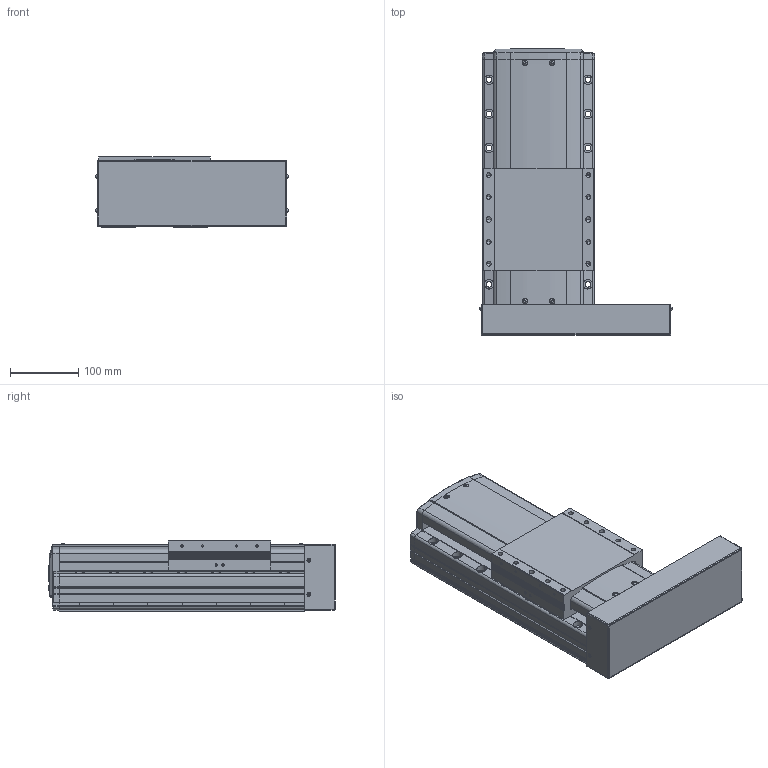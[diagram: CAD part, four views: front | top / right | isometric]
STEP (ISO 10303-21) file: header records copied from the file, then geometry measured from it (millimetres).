
FILE_DESCRIPTION(('STEP AP214'),'1');
FILE_NAME('Z:/Web/3D/PSA165/STP/PSA165-100 (3D)/PSA165ㅁㅁ-100PR.stp','2014-06-23T06:27:12',(' '),(' '),'Spatial InterOp 3D',' ',' ');
FILE_SCHEMA(('automotive_design'));
Length unit declared in the file: millimetre
Products named in the file (23): 스크루 : Round - M4.0 x 12.0; RRCV-PA160; BASE; 스크루 : Round - M4.0 x 10.0; RN15; Screw 20; SLIDE; FRCV; MTPL; 스크루 : Round - M3.0 x 6.0
Bounding box: 281.93 x 420.8 x 104 mm (x, y, z)
Volume: 6587752.6 mm3; surface area: 535277.3 mm2
Topology: 23 solids, 23 shells, 1899 faces, 5113 edges, 3267 vertices
Faces by surface type: plane 1068, cylinder 581, cone 165, sphere 44, bspline 25, torus 16
Entity records: 77455 total; most frequent: CARTESIAN_POINT 13904, DIRECTION 10079, ORIENTED_EDGE 9990, EDGE_CURVE 4995, LINE 3407, VECTOR 3407, AXIS2_PLACEMENT_3D 3336, VERTEX_POINT 3267
